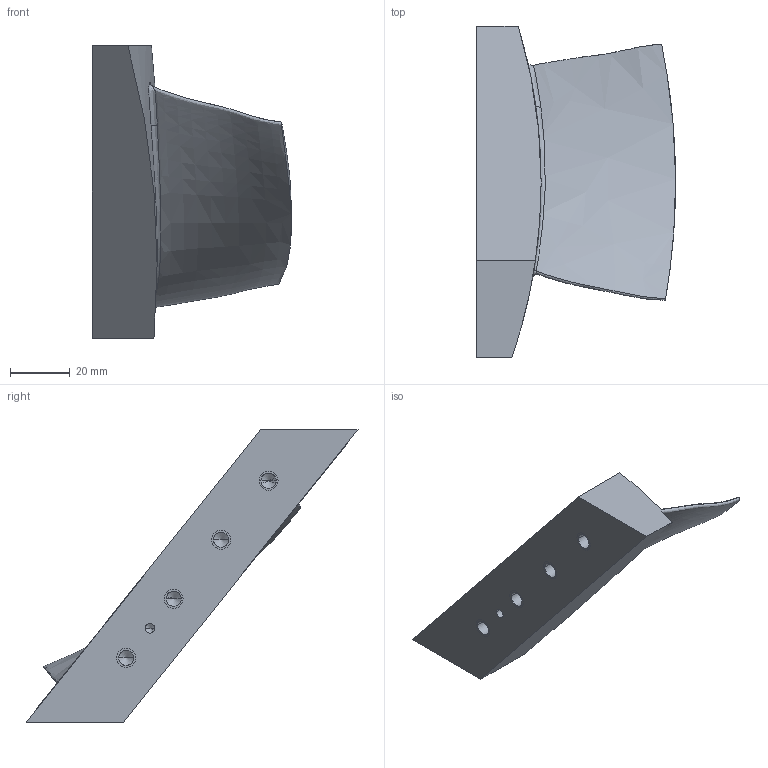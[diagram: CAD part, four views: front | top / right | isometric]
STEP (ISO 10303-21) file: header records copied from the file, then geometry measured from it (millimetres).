
FILE_DESCRIPTION((''),'2;1');
FILE_NAME('ROTOR_POINT62MM_CUTROUND','2014-03-04T',('Aric Rousso'),(''),'PRO/ENGINEER BY PARAMETRIC TECHNOLOGY CORPORATION, 2013230','PRO/ENGINEER BY PARAMETRIC TECHNOLOGY CORPORATION, 2013230','');
FILE_SCHEMA(('CONFIG_CONTROL_DESIGN'));
Length unit declared in the file: inch
Products named in the file (1): ROTOR_POINT62MM_CUTROUND
Bounding box: 66.81 x 111.3 x 97.94 mm (x, y, z)
Volume: 84307.3 mm3; surface area: 24094.9 mm2
Topology: 1 solids, 6 shells, 47 faces, 121 edges, 75 vertices
Faces by surface type: cylinder 20, cone 10, plane 9, bspline 8
Entity records: 5792 total; most frequent: CARTESIAN_POINT 4727, DIRECTION 200, ORIENTED_EDGE 192, EDGE_CURVE 110, AXIS2_PLACEMENT_3D 82, VERTEX_POINT 75, EDGE_LOOP 57, FACE_OUTER_BOUND 47
